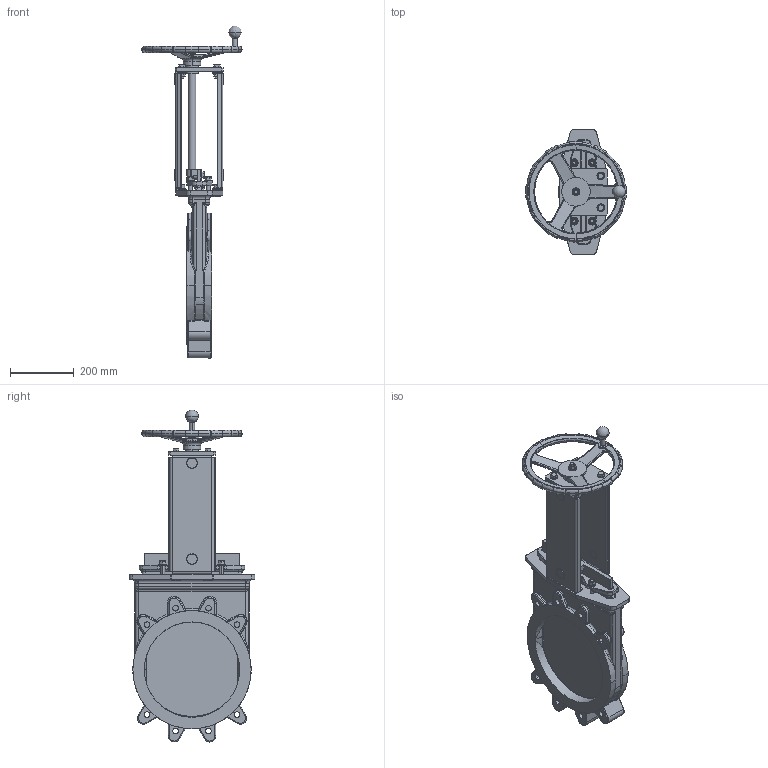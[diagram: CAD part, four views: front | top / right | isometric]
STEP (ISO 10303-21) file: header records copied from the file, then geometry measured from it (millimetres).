
FILE_DESCRIPTION(('STEP AP203'),'1');
FILE_NAME('G:/KONSTRUK/3-d block för CD/WB VALVE/HAND WHEEL/300/WB11 DN300 PN10 HW.stp','2012-11-30T13:24:24',(' '),(' '),'Spatial InterOp 3D',' ',' ');
FILE_SCHEMA(('CONFIG_CONTROL_DESIGN'));
Length unit declared in the file: millimetre
Products named in the file (7): 1; 2; 3; 4; 5; 6; 7
Bounding box: 316.7 x 396 x 1044.49 mm (x, y, z)
Volume: 9695022.4 mm3; surface area: 1519974.5 mm2
Topology: 7 solids, 19 shells, 1808 faces, 4372 edges, 2633 vertices
Faces by surface type: plane 560, cylinder 547, cone 292, torus 241, bspline 130, sphere 38
Entity records: 94995 total; most frequent: CARTESIAN_POINT 53305, DIRECTION 8706, ORIENTED_EDGE 8656, EDGE_CURVE 4328, AXIS2_PLACEMENT_3D 3525, VERTEX_POINT 2633, EDGE_LOOP 1953, CIRCLE 1824
